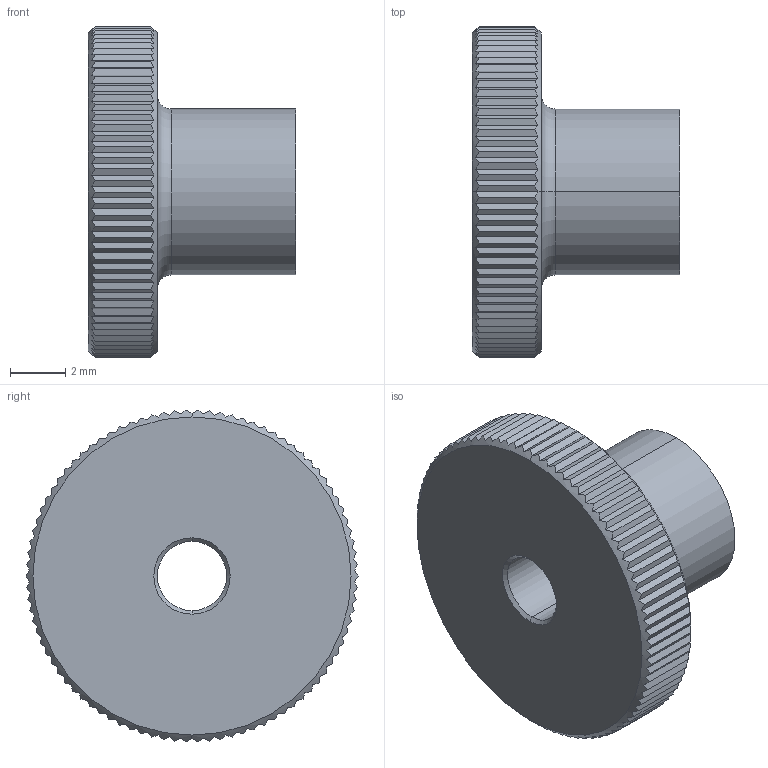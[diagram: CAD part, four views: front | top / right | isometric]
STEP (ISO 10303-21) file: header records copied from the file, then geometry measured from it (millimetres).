
FILE_DESCRIPTION (( 'STEP AP203' ), '1' );
FILE_NAME ('37100.W0003.step', '2015-11-25T13:23:50', ( 'User' ), ( '' ), 'SwSTEP 2.0', 'SolidWorks 2009', '' );
FILE_SCHEMA (( 'CONFIG_CONTROL_DESIGN' ));
Length unit declared in the file: millimetre
Products named in the file (1): 37100.W0003
Bounding box: 7.5 x 12 x 11.99 mm (x, y, z)
Volume: 380.9 mm3; surface area: 458.2 mm2
Topology: 1 solids, 1 shells, 197 faces, 572 edges, 378 vertices
Faces by surface type: plane 183, cone 8, cylinder 4, torus 2
Entity records: 6807 total; most frequent: CARTESIAN_POINT 2228, ORIENTED_EDGE 1144, DIRECTION 628, EDGE_CURVE 572, VERTEX_POINT 378, B_SPLINE_CURVE_WITH_KNOTS 360, AXIS2_PLACEMENT_3D 218, EDGE_LOOP 200
